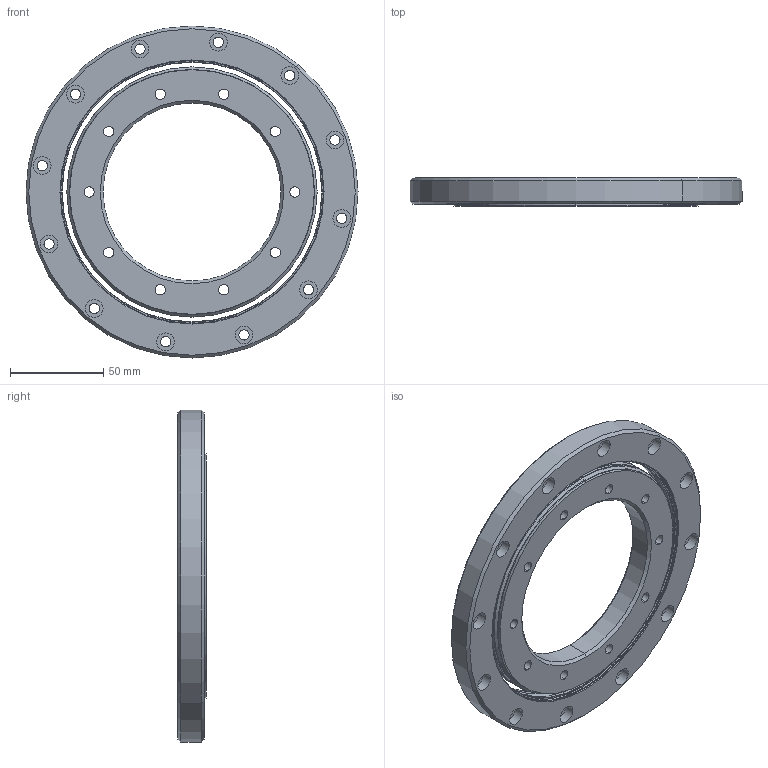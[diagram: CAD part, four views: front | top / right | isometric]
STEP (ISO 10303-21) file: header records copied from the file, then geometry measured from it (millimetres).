
FILE_DESCRIPTION (( 'STEP AP214' ), '1' );
FILE_NAME ('TTS2-096-179-15 Bearing Assembly.STEP', '2018-03-14T15:12:31', ( 'Admin' ), ( '' ), 'SwSTEP 2.0', 'SolidWorks 2018', '' );
FILE_SCHEMA (( 'AUTOMOTIVE_DESIGN' ));
Length unit declared in the file: inch
Products named in the file (3): TTS2 Outer Ring_TTS2-096-179-15; TTS2 Inner Ring_TTS2-096-179-15; TTS2-096-179-15 Bearing Assembly
Assembly tree (2 placements, depth 2):
  TTS2-096-179-15 Bearing Assembly
    TTS2 Inner Ring_TTS2-096-179-15
    TTS2 Outer Ring_TTS2-096-179-15
Bounding box: 177.8 x 15 x 177.8 mm (x, y, z)
Volume: 210076.4 mm3; surface area: 61579.6 mm2
Topology: 2 solids, 2 shells, 190 faces, 424 edges, 262 vertices
Faces by surface type: cylinder 112, cone 28, plane 28, torus 22
Entity records: 5576 total; most frequent: DIRECTION 1098, CARTESIAN_POINT 881, ORIENTED_EDGE 848, AXIS2_PLACEMENT_3D 479, EDGE_CURVE 424, CIRCLE 284, VERTEX_POINT 262, EDGE_LOOP 262
